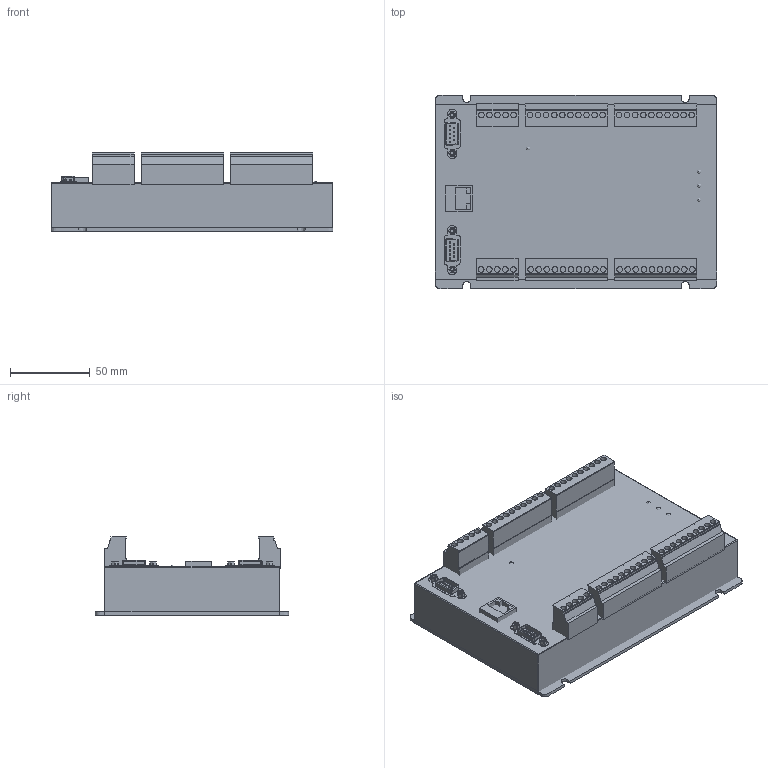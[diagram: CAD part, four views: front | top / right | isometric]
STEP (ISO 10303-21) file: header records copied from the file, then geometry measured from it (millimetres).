
FILE_DESCRIPTION(/* description */ (''),/* implementation_level */ '2;1');
FILE_NAME(/* name */ 'ZMC004WE模型2.step',/* time_stamp */ '2020-09-06T09:26:35+08:00',/* author */ (''),/* organization */ (''),/* preprocessor_version */ 'ST-DEVELOPER v16',/* originating_system */ 'SIEMENS PLM Software NX 10.0',/* authorisation */ '');
FILE_SCHEMA (('AUTOMOTIVE_DESIGN { 1 0 10303 214 3 1 1 1 }'));
Length unit declared in the file: millimetre
Products named in the file (1): 004WE模型22
Bounding box: 177.2 x 121.6 x 49.1 mm (x, y, z)
Volume: 698855.1 mm3; surface area: 132290 mm2
Topology: 17 solids, 17 shells, 483 faces, 1077 edges, 670 vertices
Faces by surface type: plane 250, cylinder 152, sphere 32, bspline 26, extrusion 19, torus 4
Full cylindrical faces by diameter (mm): 1 x18, 2.1 x4, 3.6 x50
Entity records: 13467 total; most frequent: CARTESIAN_POINT 3515, DIRECTION 2070, ORIENTED_EDGE 1786, EDGE_CURVE 893, AXIS2_PLACEMENT_3D 765, EDGE_LOOP 653, VERTEX_POINT 616, VECTOR 540
